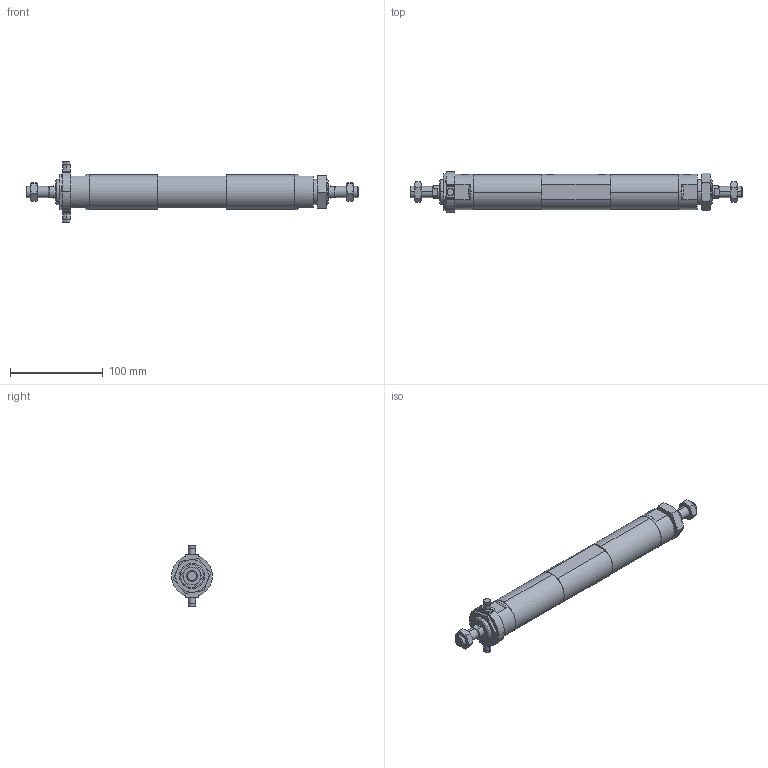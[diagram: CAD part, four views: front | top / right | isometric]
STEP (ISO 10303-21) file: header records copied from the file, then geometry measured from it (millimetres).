
FILE_DESCRIPTION (( 'STEP AP203' ), '1' );
FILE_NAME ('JGD7-32-25-25-T.STEP', '2016-04-19T07:24:54', ( '' ), ( '' ), 'SwSTEP 2.0', 'SolidWorks 2014', '' );
FILE_SCHEMA (( 'CONFIG_CONTROL_DESIGN' ));
Length unit declared in the file: millimetre
Products named in the file (8): M27x2-3mm; JGLH2-32B; J#2-32-T; JGD7-32-25-25-T; M27x2-10mm; M12x1.25-7mm; 32-25; JGD2-32MI
Assembly tree (10 placements, depth 2):
  JGD7-32-25-25-T
    JGLH2-32B  x2
    32-25  x2
    JGD2-32MI
    M12x1.25-7mm  x2
    M27x2-3mm
    J#2-32-T
    M27x2-10mm
Bounding box: 358 x 44 x 66 mm (x, y, z)
Volume: 329481.5 mm3; surface area: 61084.9 mm2
Topology: 10 solids, 10 shells, 211 faces, 469 edges, 280 vertices
Faces by surface type: plane 70, cylinder 59, torus 48, cone 34
Entity records: 5836 total; most frequent: CARTESIAN_POINT 1557, DIRECTION 724, ORIENTED_EDGE 678, EDGE_CURVE 339, AXIS2_PLACEMENT_3D 303, VERTEX_POINT 206, EDGE_LOOP 169, FACE_OUTER_BOUND 154
